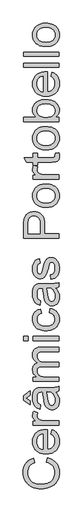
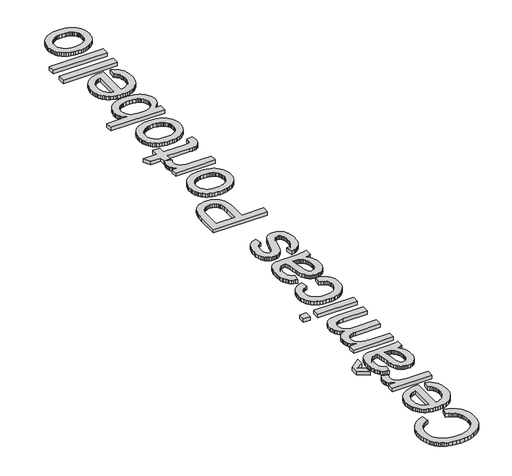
# One storey, part 2 of 11: 1 proxy.
"""IFC4 building model written with IfcOpenShell, lengths in millimetres."""

from ifc_helpers import new_model, si_unit, origin, origin_with_axes, place, context, project, spatial, polyline, outline, extrude, element, save

model = new_model("IFC4")

# Units and contexts
model_context = context("Model", 3, world=origin())
ifc_project = project(units=[si_unit("LENGTHUNIT", "METRE", prefix="MILLI")], contexts=[model_context])

# Site, building, storey
site = spatial("IfcSite", under=ifc_project)
building = spatial("IfcBuilding", under=site)
storey = spatial("IfcBuildingStorey", under=building, Name="PORTOBELLO - SHOWROOM", Elevation=0.0)

# Proxy
placement = place(None, origin())
element("IfcBuildingElementProxy", 1, Name="1200mm OpenSans", ObjectType="1200mm OpenSans", at=placement, inside=storey, context=model_context, shape_type="SweptSolid", body=[
    extrude(outline(polyline([(-36175.2477372, -11128.1020827), (-36127.655154, -10943.5005479), (-36068.4432878, -10960.2492162), (-36012.8538211, -10980.0287568), (-35960.8867539, -11002.8391699), (-35912.5420862, -11028.6804553), (-35867.819818, -11057.5526131), (-35826.7199493, -11089.4556432), (-35789.2424801, -11124.3895457), (-35755.3874104, -11162.3543206), (-35725.3462824, -11202.9387157), (-35699.310638, -11245.7314787), (-35677.2804774, -11290.7326097), (-35659.2558006, -11337.9421086), (-35645.2366075, -11387.3599756), (-35635.2228981, -11438.9862105), (-35629.2146725, -11492.8208134), (-35627.2119307, -11548.8637842), (-35633.2736754, -11661.4342148), (-35640.8508563, -11713.5871905), (-35651.4589096, -11762.9853399), (-35665.0978353, -11809.6286629), (-35681.7676333, -11853.5171595), (-35701.4683037, -11894.6508297), (-35724.1998464, -11933.0296736), (-35749.804521, -11968.9269203), (-35778.1245868, -12002.615799), (-35809.1600438, -12034.0963098), (-35842.910892, -12063.3684526), (-35879.3771315, -12090.4322274), (-35918.5587622, -12115.2876343), (-35960.4557841, -12137.9346732), (-36005.0681973, -12158.3733441), (-36098.6984924, -12192.2086962), (-36195.7089425, -12216.3768049), (-36296.0995477, -12230.87767), (-36399.870308, -12235.7112918), (-36511.2126155, -12230.2467078), (-36615.2087195, -12213.8529557), (-36711.8586197, -12186.5300357), (-36757.4287435, -12168.7701377), (-36801.1623163, -12148.2779476), (-36842.690338, -12125.2675421), (-36881.6438082, -12099.9529975), (-36918.022727, -12072.3343139), (-36951.8270944, -12042.4114913), (-36983.0569103, -12010.1845296), (-37011.7121748, -11975.6534289), (-37037.7928879, -11938.8181891), (-37061.2990495, -11899.6788104), (-37100.1820998, -11817.0678208), (-37127.9557072, -11730.4006451), (-37144.6198717, -11639.6772834), (-37150.1745931, -11544.8977356), (-37148.3774774, -11491.0096136), (-37142.9861301, -11439.3129588), (-37134.0005512, -11389.8077712), (-37121.4207408, -11342.4940508), (-37105.2466988, -11297.3717976), (-37085.4784253, -11254.4410116), (-37062.1159203, -11213.7016927), (-37035.1591837, -11175.1538411), (-37004.9405975, -11139.124205), (-36971.7925436, -11105.9395327), (-36935.715022, -11075.5998243), (-36896.7080326, -11048.1050797), (-36854.7715755, -11023.4552989), (-36809.9056507, -11001.650482), (-36762.1102582, -10982.6906289), (-36711.385398, -10966.5757397), (-36667.3983135, -11151.1772746), (-36739.992777, -11180.2466081), (-36802.0186223, -11215.174877), (-36853.4758494, -11255.9620813), (-36894.3644584, -11302.6082211), (-36925.5182209, -11355.3837087), (-36947.7709083, -11414.5589566), (-36961.1225208, -11480.1339647), (-36965.5730583, -11552.1087331), (-36960.6380319, -11634.9225319), (-36945.8329528, -11710.6605396), (-36921.1578208, -11779.322756), (-36886.6126362, -11840.9091811), (-36843.75227, -11894.6423793), (-36794.1315938, -11939.744915), (-36737.7506075, -11976.2167881), (-36674.609311, -12004.0579985), (-36607.569569, -12024.6431428), (-36539.4932462, -12039.3468173), (-36470.3803424, -12048.169022), (-36400.2308578, -12051.1097569), (-36312.0764139, -12047.6281972), (-36229.690768, -12037.1835181), (-36153.0739201, -12019.7757196), (-36082.2258701, -11995.4048016), (-36018.555016, -11963.6764128), (-35963.4697557, -11924.1962017), (-35916.9700893, -11876.9641684), (-35879.0560168, -11821.9803128), (-35849.6374006, -11761.9149574), (-35828.6241033, -11699.4384248), (-35816.016125, -11634.5507149), (-35811.8134655, -11567.2518277), (-35817.5371947, -11486.9956795), (-35834.7083824, -11413.1618258), (-35847.5867732, -11378.6532595), (-35863.3270286, -11345.7502668), (-35881.9291486, -11314.4528478), (-35903.3931332, -11284.7610024), (-35927.6739137, -11257.0352806), (-35954.7264213, -11231.6362321), (-35984.5506561, -11208.563857), (-36017.146618, -11187.8181554), (-36052.5143071, -11169.3991271), (-36090.6537233, -11153.3067722), (-36175.2477372, -11128.1020827)])), origin_with_axes(), (0.0, 0.0, 1.0), 100.0),
    extrude(outline(polyline([(-35973.3398085, -9953.4305973), (-35950.2646166, -9772.4345612), (-35877.7715579, -9800.1856342), (-35844.7530765, -9817.7032878), (-35813.8866273, -9837.6490194), (-35785.1722101, -9860.0228291), (-35758.6098249, -9884.8247168), (-35734.1994718, -9912.0546826), (-35711.9411508, -9941.7127264), (-35692.0827398, -9973.6523749), (-35674.872117, -10007.7271547), (-35660.3092823, -10043.9370657), (-35648.3942357, -10082.2821081), (-35632.5075069, -10165.3775866), (-35627.2119307, -10257.0135902), (-35629.4963521, -10315.8451889), (-35636.3496165, -10371.5557778), (-35647.7717238, -10424.1453569), (-35663.762674, -10473.6139262), (-35684.3224671, -10519.9614856), (-35709.4511032, -10563.1880352), (-35739.1485822, -10603.293575), (-35773.4149041, -10640.2781049), (-35811.8050151, -10673.4881283), (-35853.8738616, -10702.2701486), (-35899.6214435, -10726.6241658), (-35949.0477608, -10746.5501799), (-36002.1528136, -10762.0481908), (-36058.9366017, -10773.1181986), (-36119.3991253, -10779.7602033), (-36183.5403843, -10781.9742049), (-36249.8646601, -10779.7376689), (-36312.3693607, -10773.0280612), (-36371.0544861, -10761.8453815), (-36425.9200363, -10746.18963), (-36476.9660112, -10726.0608066), (-36524.192411, -10701.4589114), (-36567.5992355, -10672.3839443), (-36607.1864848, -10638.8359054), (-36642.5091051, -10601.7218029), (-36673.1220428, -10561.948645), (-36699.0252977, -10519.5164319), (-36720.2188699, -10474.4251634), (-36736.7027594, -10426.6748396), (-36748.4769662, -10376.2654606), (-36755.5414902, -10323.1970262), (-36757.8963316, -10267.4695365), (-36755.5471238, -10213.5645137), (-36748.4995005, -10162.1777064), (-36736.7534617, -10113.3091147), (-36720.3090074, -10066.9587385), (-36699.1661375, -10023.1265778), (-36673.3248521, -9981.8126326), (-36642.7851511, -9943.0169029), (-36607.5470347, -9906.7393888), (-36568.0499228, -9873.9096328), (-36524.7332358, -9845.4571776), (-36477.5969735, -9821.3820232), (-36426.641136, -9801.6841696), (-36371.8657233, -9786.3636168), (-36313.2707354, -9775.4203648), (-36250.8561723, -9768.8544136), (-36184.6220339, -9766.6657632), (-36134.8661515, -9767.7474128), (-36134.8661515, -10597.37267), (-36061.2013056, -10586.6801129), (-36027.7997401, -10577.3706025), (-35996.6854128, -10565.4189376), (-35967.8583237, -10550.8251181), (-35941.3184729, -10533.5891441), (-35917.0658604, -10513.7110156), (-35895.1004861, -10491.1907325), (-35858.6624146, -10440.5672769), (-35832.6352207, -10384.0623516), (-35817.0189043, -10321.6759564), (-35811.8134655, -10253.4080914), (-35814.2246428, -10202.3452157), (-35821.4581746, -10155.1582511), (-35833.514061, -10111.8471976), (-35850.3923019, -10072.4120553), (-35872.5435847, -10036.8528241), (-35900.4185967, -10005.169504), (-35934.017338, -9977.3620951), (-35973.3398085, -9953.4305973)]), holes=[polyline([(-36319.4676863, -10597.37267), (-36319.4676863, -9951.2672981), (-36371.7023491, -9960.7542666), (-36416.9964269, -9976.2353768), (-36455.3499196, -9997.7106285), (-36486.7628273, -10025.180022), (-36507.0437576, -10049.4833368), (-36524.6205639, -10075.521798), (-36539.4932462, -10103.2954053), (-36551.6618044, -10132.804159), (-36567.8865487, -10197.0271051), (-36573.2947967, -10268.1906362), (-36568.9794655, -10333.1008805), (-36556.0334716, -10392.625411), (-36534.4568151, -10446.7642279), (-36504.2494961, -10495.517331), (-36466.8086453, -10536.4284743), (-36423.5313934, -10567.041412), (-36374.4177404, -10587.3561439), (-36319.4676863, -10597.37267)])]), origin_with_axes(), (0.0, 0.0, 1.0), 100.0),
    extrude(outline(polyline([(-35650.2871225, -9582.0642284), (-36734.8211397, -9582.0642284), (-36734.8211397, -9420.5378854), (-36574.3764464, -9420.5378854), (-36625.6646658, -9390.1164899), (-36667.3983135, -9360.8668814), (-36699.5773897, -9332.7890601), (-36722.2018942, -9305.8830258), (-36737.8182106, -9278.9319229), (-36748.9727222, -9250.7188953), (-36755.6654293, -9221.2439432), (-36757.8963316, -9190.5070666), (-36754.3359016, -9144.7172327), (-36743.6546116, -9098.566849), (-36725.8524617, -9052.0559154), (-36700.9294517, -9005.184432), (-36535.4370601, -9066.8384602), (-36551.9998199, -9099.2879488), (-36563.8303626, -9131.7374373), (-36570.9286882, -9164.1869259), (-36573.2947967, -9196.6364144), (-36571.0188257, -9224.9283122), (-36564.1909125, -9251.7554762), (-36552.8110571, -9277.1179063), (-36536.8792596, -9301.0156026), (-36516.9138104, -9322.5471903), (-36493.4329999, -9340.8112948), (-36466.4368282, -9355.807916), (-36435.9252952, -9367.5370541), (-36385.5384505, -9380.6295213), (-36332.8080316, -9389.9812837), (-36277.7340386, -9395.5923411), (-36220.3164713, -9397.4626935), (-35650.2871225, -9397.4626935), (-35650.2871225, -9582.0642284)])), origin_with_axes(), (0.0, 0.0, 1.0), 100.0),
    extrude(outline(polyline([(-35788.7382737, -8197.552717), (-35747.6581225, -8241.325725), (-35713.1129378, -8285.7522297), (-35685.1027196, -8330.8322309), (-35663.6274678, -8376.5657288), (-35647.6956703, -8423.4710139), (-35636.315815, -8472.0663764), (-35629.4879017, -8522.3518165), (-35627.2119307, -8574.327334), (-35632.6877819, -8656.5214379), (-35639.5325958, -8693.8242657), (-35649.1153354, -8728.5976108), (-35661.4360006, -8760.8414733), (-35676.4945914, -8790.555853), (-35694.2911078, -8817.7407501), (-35714.8255497, -8842.3961644), (-35737.4894894, -8864.3249204), (-35761.6744988, -8883.3298422), (-35787.380578, -8899.4109299), (-35814.607727, -8912.5681834), (-35843.3559458, -8922.8016029), (-35873.6252343, -8930.1111882), (-35938.7270207, -8935.9588564), (-35977.8692163, -8933.7504884), (-36015.2537312, -8927.1253845), (-36050.8805655, -8916.0835447), (-36084.7497192, -8900.6249689), (-36116.1175581, -8881.5721615), (-36144.2404482, -8859.7476271), (-36169.1183894, -8835.1513654), (-36190.7513818, -8807.7833767), (-36225.9049944, -8746.715242), (-36251.3237604, -8678.5262473), (-36265.4753429, -8612.0949332), (-36279.0861006, -8518.8026536), (-36293.0574082, -8417.2627957), (-36308.2906403, -8330.0547953), (-36324.785797, -8257.1786522), (-36342.5428782, -8198.6343666), (-36383.6455637, -8197.552717), (-36428.3988166, -8200.7300628), (-36466.0312096, -8210.2621), (-36496.5427426, -8226.1488288), (-36519.9334156, -8248.3902491), (-36543.2790198, -8286.8338793), (-36559.9544515, -8333.660294), (-36569.9597104, -8388.8694933), (-36573.2947967, -8452.4614771), (-36571.0751616, -8511.5916562), (-36564.4162561, -8562.4291882), (-36553.3180804, -8604.9740732), (-36537.7806343, -8639.2263111), (-36516.5870621, -8667.3717356), (-36488.5205079, -8691.5961802), (-36453.5809718, -8711.8996449), (-36411.7684538, -8728.2821297), (-36434.8436456, -8912.8836646), (-36488.0247518, -8898.8334867), (-36535.79761, -8880.8397946), (-36578.16222, -8858.9025883), (-36615.118582, -8833.0218677), (-36647.41033, -8802.0821818), (-36675.7810981, -8764.9680793), (-36700.2308863, -8721.6795602), (-36720.7596947, -8672.2166245), (-36737.0069733, -8617.5820516), (-36748.6121724, -8558.7786208), (-36755.5752918, -8495.8063321), (-36757.8963316, -8428.6651855), (-36755.8457042, -8363.0338414), (-36749.693822, -8303.8698608), (-36739.440685, -8251.1732434), (-36725.0862932, -8204.9439894), (-36707.6334259, -8164.7990145), (-36688.0848625, -8130.3552345), (-36666.4406029, -8101.6126493), (-36642.7006473, -8078.571259), (-36616.2791019, -8059.8902687), (-36586.5900733, -8044.2288836), (-36553.6335615, -8031.5871037), (-36517.4095665, -8021.964929), (-36453.592239, -8015.2046189), (-36355.8832235, -8012.9511822), (-36126.2129545, -8012.9511822), (-35926.1528439, -8010.607608), (-35805.5038427, -8003.5768855), (-35726.2279395, -7989.6957154), (-35650.2871225, -7966.8007985), (-35650.2871225, -8151.4023333), (-35681.1141366, -8167.8073525), (-35714.4649999, -8180.9674229), (-35750.3397122, -8190.8825444), (-35788.7382737, -8197.552717)]), holes=[polyline([(-36157.9413433, -8197.552717), (-36141.9644771, -8253.3478098), (-36127.2044667, -8321.5818733), (-36101.3350133, -8495.3669119), (-36087.1834308, -8591.1379719), (-36071.4093739, -8654.1891309), (-36050.9481686, -8695.51716), (-36037.8106326, -8712.1587901), (-36022.7351411, -8726.1188305), (-35988.9335905, -8745.0476988), (-35970.7483563, -8749.7799159), (-35951.7068161, -8751.3573216), (-35923.0205669, -8747.9208306), (-35896.813098, -8737.6113577), (-35873.0844095, -8720.4289028), (-35851.8345014, -8696.373466), (-35834.3252982, -8665.6703909), (-35821.8187245, -8628.5450212), (-35814.3147803, -8584.9973568), (-35811.8134655, -8535.0273979), (-35814.5739255, -8484.0095909), (-35822.8553054, -8435.8761829), (-35836.6576052, -8390.6271739), (-35855.9808249, -8348.2625638), (-35879.2250245, -8310.0442773), (-35904.7902639, -8277.2342389), (-35932.6765432, -8249.8324486), (-35962.8838622, -8227.8389063), (-35989.9251026, -8215.0619202), (-36022.7351411, -8205.9355016), (-36061.3139774, -8200.4596504), (-36105.6616118, -8198.6343666), (-36157.9413433, -8197.552717)])]), origin_with_axes(), (0.0, 0.0, 1.0), 100.0),
    extrude(outline(polyline([(-37034.7986339, -8451.3798274), (-36850.197099, -8555.2181908), (-36850.197099, -8739.8197256), (-37127.0994013, -8543.6805949), (-37127.0994013, -8359.07906), (-36850.197099, -8139.8647374), (-36850.197099, -8324.4662722), (-37034.7986339, -8451.3798274)])), origin_with_axes(), (0.0, 0.0, 1.0), 100.0),
    extrude(outline(polyline([(-35650.2871225, -7759.1240718), (-36734.8211397, -7759.1240718), (-36734.8211397, -7574.5225369), (-36556.3489527, -7574.5225369), (-36599.5586015, -7548.743221), (-36638.32898, -7518.9978565), (-36672.6600882, -7485.2864434), (-36702.5519261, -7447.6089817), (-36726.7651035, -7406.5738993), (-36744.0602302, -7362.7896242), (-36754.4373063, -7316.2561562), (-36757.8963316, -7266.9734955), (-36754.3697032, -7213.0938239), (-36743.7898178, -7164.3069192), (-36726.1566756, -7120.6127815), (-36701.4702765, -7082.0114108), (-36670.4291859, -7048.6154788), (-36633.7319692, -7020.5376575), (-36591.3786263, -6997.7779467), (-36543.3691573, -6980.3363466), (-36593.6489638, -6947.8755909), (-36637.2247961, -6913.0487266), (-36674.0966541, -6875.8557538), (-36704.264538, -6836.2966725), (-36727.7284477, -6794.3714826), (-36744.4883832, -6750.0801842), (-36754.5443445, -6703.4227772), (-36757.8963316, -6654.3992617), (-36752.3190757, -6580.497805), (-36745.3475059, -6546.935682), (-36735.5873082, -6515.6326294), (-36723.0384826, -6486.5886471), (-36707.701029, -6459.803735), (-36689.5749475, -6435.2778933), (-36668.6602381, -6413.0111219), (-36644.8442289, -6393.1949629), (-36618.0142482, -6376.0209584), (-36588.1702958, -6361.4891084), (-36555.3123718, -6349.599413), (-36519.4404763, -6340.3518721), (-36480.5546092, -6333.7464858), (-36393.7409601, -6328.4621767), (-35650.2871225, -6328.4621767), (-35650.2871225, -6513.0637116), (-36314.4199881, -6513.0637116), (-36406.4954119, -6517.3452413), (-36441.2772074, -6522.6971535), (-36468.5550587, -6530.1898305), (-36490.9429524, -6540.4880363), (-36511.054875, -6554.2565345), (-36528.8908265, -6571.4953253), (-36544.4508069, -6592.2044086), (-36557.0700525, -6615.6288832), (-36566.0837993, -6641.0138477), (-36571.4920474, -6668.3593021), (-36573.2947967, -6697.6652464), (-36568.6752515, -6749.9787795), (-36554.8166158, -6797.6727674), (-36531.7188895, -6840.74721), (-36499.3820728, -6879.2021073), (-36479.5123947, -6896.1451346), (-36456.8597222, -6910.8290915), (-36403.2053943, -6933.4197945), (-36338.419089, -6946.9742162), (-36262.5008064, -6951.4923568), (-35650.2871225, -6951.4923568), (-35650.2871225, -7136.0938917), (-36334.9713309, -7136.0938917), (-36390.9016299, -7138.7642142), (-36439.350519, -7146.7751816), (-36480.3179983, -7160.1267941), (-36513.8040677, -7178.8190516), (-36539.8312617, -7203.5955882), (-36558.4221145, -7235.2000379), (-36569.5766262, -7273.6324009), (-36573.2947967, -7318.8926771), (-36570.8160164, -7355.1504737), (-36563.3796752, -7390.0111395), (-36550.9857734, -7423.4746746), (-36533.6343107, -7455.5410789), (-36511.5055623, -7484.7456186), (-36484.779803, -7509.6235598), (-36453.4570328, -7530.1749026), (-36417.5372517, -7546.3996469), (-36375.1050386, -7558.7034113), (-36324.2449721, -7567.4918144), (-36264.9570524, -7572.7648563), (-36197.2412795, -7574.5225369), (-35650.2871225, -7574.5225369), (-35650.2871225, -7759.1240718)])), origin_with_axes(), (0.0, 0.0, 1.0), 100.0),
    extrude(outline(polyline([(-36942.4978664, -6051.5598744), (-37127.0994013, -6051.5598744), (-37127.0994013, -5866.9583396), (-36942.4978664, -5866.9583396), (-36942.4978664, -6051.5598744)])), origin_with_axes(), (0.0, 0.0, 1.0), 100.0),
    extrude(outline(polyline([(-35650.2871225, -6051.5598744), (-36734.8211397, -6051.5598744), (-36734.8211397, -5866.9583396), (-35650.2871225, -5866.9583396), (-35650.2871225, -6051.5598744)])), origin_with_axes(), (0.0, 0.0, 1.0), 100.0),
    extrude(outline(polyline([(-36042.5653841, -4897.8002817), (-36019.4901922, -4713.1987468), (-35974.6834201, -4721.8237758), (-35932.3835964, -4733.2768679), (-35892.590721, -4747.558023), (-35855.3047939, -4764.6672412), (-35820.5258152, -4784.6045224), (-35788.2537848, -4807.3698667), (-35758.4887027, -4832.9632741), (-35731.230569, -4861.3847445), (-35706.8512006, -4892.0652853), (-35685.7224147, -4924.4359035), (-35667.8442112, -4958.4965993), (-35653.2165902, -4994.2473726), (-35641.8395517, -5031.6882235), (-35633.7130956, -5070.8191518), (-35628.8372219, -5111.6401578), (-35627.2119307, -5154.1512412), (-35629.4794513, -5207.2562939), (-35636.2820134, -5257.6853906), (-35647.6196168, -5305.4385311), (-35663.4922616, -5350.5157156), (-35683.8999478, -5392.916944), (-35708.8426753, -5432.6422163), (-35738.3204442, -5469.6915326), (-35772.3332544, -5504.0648927), (-35810.5825257, -5535.0355634), (-35852.7696776, -5561.8768113), (-35898.8947102, -5584.5886365), (-35948.9576234, -5603.171039), (-36002.9584172, -5617.6240186), (-36060.8970917, -5627.9475755), (-36122.7736468, -5634.1417097), (-36188.5880825, -5636.206421), (-36273.463776, -5632.6797926), (-36352.8636183, -5622.0999073), (-36426.7876094, -5604.4667651), (-36495.2357493, -5579.780366), (-36556.8334416, -5547.8717022), (-36610.20609, -5508.5717661), (-36655.3536943, -5461.8805576), (-36692.2762548, -5407.7980767), (-36720.9850384, -5348.7693022), (-36741.4913124, -5287.239213), (-36753.7950768, -5223.207809), (-36757.8963316, -5156.6750903), (-36752.2627398, -5074.7739333), (-36745.2207501, -5036.7556393), (-36735.3619645, -5000.6922016), (-36722.6863831, -4966.5836203), (-36707.1940057, -4934.4298953), (-36688.8848325, -4904.2310267), (-36667.7588634, -4875.9870144), (-36644.0414421, -4849.9457364), (-36617.9579122, -4826.3550709), (-36589.5082738, -4805.2150179), (-36558.6925269, -4786.5255772), (-36525.5106714, -4770.2867489), (-36489.9627074, -4756.4985331), (-36411.7684538, -4736.2739387), (-36388.6932619, -4920.8754735), (-36431.8127732, -4935.2862012), (-36469.2310897, -4954.361543), (-36500.9482113, -4978.1014986), (-36526.9641381, -5006.5060683), (-36547.2338013, -5038.8541522), (-36561.7121321, -5074.4246506), (-36570.3991306, -5113.2175634), (-36573.2947967, -5155.2328908), (-36567.5936019, -5217.9573015), (-36550.4900173, -5274.5298299), (-36537.6623289, -5300.5091384), (-36521.984043, -5324.9504762), (-36482.0756789, -5369.2192403), (-36457.6146235, -5388.528376), (-36429.8410161, -5405.2629604), (-36398.7548568, -5419.4229933), (-36364.3561455, -5431.0084747), (-36285.621067, -5446.4557833), (-36193.6357807, -5451.6048862), (-36100.2646309, -5446.5684552), (-36020.6169106, -5431.4591621), (-35985.9393365, -5420.1271922), (-35954.6926198, -5406.2770069), (-35926.8767604, -5389.908606), (-35902.4917585, -5371.0219896), (-35862.8200053, -5327.6320659), (-35847.2346737, -5303.6132474), (-35834.4830388, -5278.0451912), (-35817.4808588, -5222.2613656), (-35811.8134655, -5160.280589), (-35815.3513611, -5110.3331645), (-35825.965048, -5064.689804), (-35843.6545261, -5023.3505077), (-35868.4197955, -4986.3152754), (-35900.5312686, -4954.6206882), (-35940.2593577, -4929.3033268), (-35987.6040628, -4910.3631913), (-36042.5653841, -4897.8002817)])), origin_with_axes(), (0.0, 0.0, 1.0), 100.0),
    extrude(outline(polyline([(-35788.7382737, -3859.4166482), (-35747.6581225, -3903.1896561), (-35713.1129378, -3947.6161608), (-35685.1027196, -3992.6961621), (-35663.6274678, -4038.42966), (-35647.6956703, -4085.334945), (-35636.315815, -4133.9303075), (-35629.4879017, -4184.2157476), (-35627.2119307, -4236.1912652), (-35632.6877819, -4318.385369), (-35639.5325958, -4355.6881968), (-35649.1153354, -4390.461542), (-35661.4360006, -4422.7054044), (-35676.4945914, -4452.4197842), (-35694.2911078, -4479.6046812), (-35714.8255497, -4504.2600956), (-35737.4894894, -4526.1888515), (-35761.6744988, -4545.1937733), (-35787.380578, -4561.274861), (-35814.607727, -4574.4321145), (-35843.3559458, -4584.665534), (-35873.6252343, -4591.9751193), (-35938.7270207, -4597.8227875), (-35977.8692163, -4595.6144196), (-36015.2537312, -4588.9893157), (-36050.8805655, -4577.9474758), (-36084.7497192, -4562.4889), (-36116.1175581, -4543.4360927), (-36144.2404482, -4521.6115582), (-36169.1183894, -4497.0152966), (-36190.7513818, -4469.6473078), (-36225.9049944, -4408.5791731), (-36251.3237604, -4340.3901784), (-36265.4753429, -4273.9588643), (-36279.0861006, -4180.6665848), (-36293.0574082, -4079.1267269), (-36308.2906403, -3991.9187264), (-36324.785797, -3919.0425834), (-36342.5428782, -3860.4982978), (-36383.6455637, -3859.4166482), (-36428.3988166, -3862.5939939), (-36466.0312096, -3872.1260312), (-36496.5427426, -3888.0127599), (-36519.9334156, -3910.2541802), (-36543.2790198, -3948.6978104), (-36559.9544515, -3995.5242251), (-36569.9597104, -4050.7334244), (-36573.2947967, -4114.3254082), (-36571.0751616, -4173.4555873), (-36564.4162561, -4224.2931194), (-36553.3180804, -4266.8380044), (-36537.7806343, -4301.0902423), (-36516.5870621, -4329.2356667), (-36488.5205079, -4353.4601113), (-36453.5809718, -4373.763576), (-36411.7684538, -4390.1460608), (-36434.8436456, -4574.7475957), (-36488.0247518, -4560.6974178), (-36535.79761, -4542.7037257), (-36578.16222, -4520.7665194), (-36615.118582, -4494.8857989), (-36647.41033, -4463.9461129), (-36675.7810981, -4426.8320104), (-36700.2308863, -4383.5434913), (-36720.7596947, -4334.0805556), (-36737.0069733, -4279.4459827), (-36748.6121724, -4220.6425519), (-36755.5752918, -4157.6702632), (-36757.8963316, -4090.5291166), (-36755.8457042, -4024.8977726), (-36749.693822, -3965.7337919), (-36739.440685, -3913.0371745), (-36725.0862932, -3866.8079205), (-36707.6334259, -3826.6629457), (-36688.0848625, -3792.2191656), (-36666.4406029, -3763.4765805), (-36642.7006473, -3740.4351902), (-36616.2791019, -3721.7541999), (-36586.5900733, -3706.0928148), (-36553.6335615, -3693.4510349), (-36517.4095665, -3683.8288601), (-36453.592239, -3677.06855), (-36355.8832235, -3674.8151133), (-36126.2129545, -3674.8151133), (-35926.1528439, -3672.4715391), (-35805.5038427, -3665.4408166), (-35726.2279395, -3651.5596465), (-35650.2871225, -3628.6647296), (-35650.2871225, -3813.2662644), (-35681.1141366, -3829.6712837), (-35714.4649999, -3842.831354), (-35750.3397122, -3852.7464755), (-35788.7382737, -3859.4166482)]), holes=[polyline([(-36157.9413433, -3859.4166482), (-36141.9644771, -3915.211741), (-36127.2044667, -3983.4458044), (-36101.3350133, -4157.230843), (-36087.1834308, -4253.001903), (-36071.4093739, -4316.053062), (-36050.9481686, -4357.3810912), (-36037.8106326, -4374.0227212), (-36022.7351411, -4387.9827616), (-35988.9335905, -4406.9116299), (-35970.7483563, -4411.643847), (-35951.7068161, -4413.2212527), (-35923.0205669, -4409.7847617), (-35896.813098, -4399.4752888), (-35873.0844095, -4382.2928339), (-35851.8345014, -4358.2373971), (-35834.3252982, -4327.534322), (-35821.8187245, -4290.4089523), (-35814.3147803, -4246.861288), (-35811.8134655, -4196.891329), (-35814.5739255, -4145.8735221), (-35822.8553054, -4097.740114), (-35836.6576052, -4052.491105), (-35855.9808249, -4010.126495), (-35879.2250245, -3971.9082085), (-35904.7902639, -3939.09817), (-35932.6765432, -3911.6963797), (-35962.8838622, -3889.7028375), (-35989.9251026, -3876.9258514), (-36022.7351411, -3867.7994327), (-36061.3139774, -3862.3235815), (-36105.6616118, -3860.4982978), (-36157.9413433, -3859.4166482)])]), origin_with_axes(), (0.0, 0.0, 1.0), 100.0),
    extrude(outline(polyline([(-35973.3398085, -3490.2135785), (-35996.4150004, -3305.6120436), (-35954.3208027, -3294.4575319), (-35917.4545782, -3276.4976414), (-35885.8163269, -3251.732372), (-35859.4060487, -3220.1617238), (-35838.5842936, -3181.6955592), (-35823.7116113, -3136.2437409), (-35814.788002, -3083.8062688), (-35811.8134655, -3024.3831429), (-35814.5401239, -2965.0276201), (-35822.7200992, -2913.8746069), (-35836.3533912, -2870.9241033), (-35855.4400001, -2836.1761093), (-35878.1997108, -2809.3602125), (-35902.8523084, -2790.2060005), (-35929.3977928, -2778.7134733), (-35957.836164, -2774.8826309), (-35982.7591739, -2778.7360077), (-36004.8879224, -2790.296138), (-36024.2224093, -2809.5630218), (-36040.7626347, -2836.5366592), (-36064.1983764, -2905.6720973), (-36093.4029161, -3026.5464421), (-36142.1222177, -3195.0133702), (-36163.811546, -3257.1406201), (-36183.7206592, -3304.530394), (-36204.5762159, -3342.1289854), (-36229.1048745, -3374.8826879), (-36257.3066348, -3402.7915015), (-36289.181497, -3425.8554262), (-36323.7717504, -3443.9167214), (-36360.1196845, -3456.8176465), (-36398.2252992, -3464.5582016), (-36438.0885945, -3467.1383866), (-36474.5379332, -3465.0652248), (-36509.6126755, -3458.8457395), (-36543.3128214, -3448.4799307), (-36575.6383709, -3433.9677983), (-36605.9358274, -3415.8727016), (-36633.5516942, -3394.7579997), (-36658.4859714, -3370.6236925), (-36680.7386588, -3343.4697803), (-36710.4389546, -3292.497042), (-36735.3619645, -3226.1107967), (-36752.2627398, -3149.3587425), (-36757.8963316, -3067.2885777), (-36755.6316277, -3005.2514653), (-36748.837516, -2947.1353326), (-36737.5139966, -2892.9401799), (-36721.6610694, -2842.666007), (-36701.9434982, -2797.5071355), (-36679.0260469, -2758.6578867), (-36652.9087155, -2726.1182607), (-36623.591504, -2699.8882574), (-36590.0490986, -2678.6158149), (-36551.2561858, -2660.9488712), (-36507.2127654, -2646.8874261), (-36457.9188375, -2636.4314798), (-36434.8436456, -2821.0330147), (-36465.6819269, -2829.832685), (-36492.9372439, -2844.3335502), (-36516.6095964, -2864.5356102), (-36536.6989847, -2890.4388652), (-36552.7096525, -2922.1559868), (-36564.1458437, -2959.7996469), (-36571.0075585, -3003.3698456), (-36573.2947967, -3052.8665828), (-36571.1089631, -3110.2841501), (-36564.5514623, -3158.8682454), (-36553.6222943, -3198.6188689), (-36538.3214591, -3229.5360205), (-36520.1136905, -3252.7238842), (-36500.4637225, -3269.2866439), (-36479.3715549, -3279.2242998), (-36456.8371879, -3282.5368518), (-36428.4438854, -3277.0384662), (-36403.1152568, -3260.5433095), (-36380.4907523, -3232.330282), (-36362.3731212, -3191.6782838), (-36323.0731851, -3032.67579), (-36274.8496396, -2869.5720413), (-36236.1806657, -2761.7225606), (-36217.3194005, -2723.7746865), (-36194.6272929, -2690.1534108), (-36168.1043429, -2660.8587337), (-36137.7505505, -2635.890655), (-36103.5208469, -2615.936473), (-36065.3701635, -2601.6834858), (-36023.2985002, -2593.1316935), (-35977.3058571, -2590.2810961), (-35931.1104047, -2593.6274496), (-35886.2670142, -2603.6665101), (-35842.7756858, -2620.3982777), (-35800.6364195, -2643.8227522), (-35761.5280254, -2673.5568495), (-35727.1293141, -2709.2174854), (-35697.4402856, -2750.8046597), (-35672.4609397, -2798.3183727), (-35652.6644982, -2850.462898), (-35638.5241829, -2905.9425097), (-35630.0399937, -2964.7572077), (-35627.2119307, -3026.906992), (-35632.6652475, -3126.2610163), (-35639.4818935, -3171.2227121), (-35649.025198, -3213.0408638), (-35661.2951608, -3251.7154712), (-35676.2917821, -3287.2465345), (-35694.0150618, -3319.6340535), (-35714.4649999, -3348.8780283), (-35737.5965276, -3375.2995737), (-35763.3645764, -3399.2198043), (-35791.769146, -3420.6387202), (-35822.8102366, -3439.5563213), (-35856.4878482, -3455.9726077), (-35892.8019807, -3469.8875794), (-35973.3398085, -3490.2135785)])), origin_with_axes(), (0.0, 0.0, 1.0), 100.0),
    extrude(outline(polyline([(-35650.2871225, -1782.6493811), (-37127.0994013, -1782.6493811), (-37127.0994013, -1235.3346743), (-37123.58404, -1107.8802943), (-37113.0379562, -1014.6781522), (-37101.9623148, -963.3110625), (-37086.7628843, -916.2931057), (-37067.4396645, -873.6242817), (-37043.9926556, -835.3045905), (-37015.9373686, -800.9284136), (-36982.7893147, -770.0901323), (-36944.5484938, -742.7897466), (-36901.214906, -719.0272565), (-36854.2194835, -699.7829071), (-36804.9931587, -686.0369432), (-36753.5359316, -677.7893648), (-36699.8478021, -675.0401721), (-36653.6129145, -676.8964406), (-36609.1920435, -682.465246), (-36566.585189, -691.7465884), (-36525.792351, -704.7404678), (-36486.8135296, -721.4468842), (-36449.6487248, -741.8658375), (-36414.2979365, -765.9973279), (-36380.7611647, -793.8413551), (-36350.1707614, -826.5302713), (-36323.6590786, -865.1964284), (-36301.2261162, -909.8398263), (-36282.8718743, -960.4604651), (-36268.5963527, -1017.0583447), (-36258.3995516, -1079.6334652), (-36252.281471, -1148.1858266), (-36250.2421108, -1222.7154288), (-36250.2421108, -1598.0478463), (-35650.2871225, -1598.0478463), (-35650.2871225, -1782.6493811)]), holes=[polyline([(-36434.8436456, -1598.0478463), (-36434.8436456, -1211.8989326), (-36439.0801066, -1123.1135264), (-36451.7894896, -1048.2092904), (-36472.9717947, -987.1862244), (-36486.7402929, -961.8801302), (-36502.6270217, -940.0443285), (-36539.9664679, -904.8681816), (-36584.2014304, -879.7423623), (-36635.3319092, -864.6668708), (-36693.3579044, -859.6417069), (-36736.4436142, -862.6049762), (-36776.2843751, -871.494784), (-36812.8801872, -886.3111303), (-36846.2310504, -907.0540152), (-36875.2553152, -932.6192546), (-36898.8713318, -961.9026646), (-36917.0791004, -994.9042451), (-36929.8786209, -1031.6239962), (-36939.3430551, -1102.8325961), (-36942.4978664, -1216.2255311), (-36942.4978664, -1598.0478463), (-36434.8436456, -1598.0478463)])]), origin_with_axes(), (0.0, 0.0, 1.0), 100.0),
    extrude(outline(polyline([(-36192.5541311, -490.4386372), (-36265.2105641, -487.9429561), (-36333.0108409, -480.4559126), (-36395.9549617, -467.9775069), (-36454.0429263, -450.5077388), (-36507.2747349, -428.0466085), (-36555.6503874, -400.5941158), (-36599.1698837, -368.1502609), (-36637.833224, -330.7150436), (-36665.9730148, -296.4515385), (-36690.3608336, -260.3627497), (-36710.9966802, -222.4486771), (-36727.8805547, -182.7093208), (-36741.0124571, -141.1446808), (-36750.3923874, -97.7547571), (-36756.0203455, -52.5395496), (-36757.8963316, -5.4990584), (-36755.6119101, 46.6426502), (-36748.7586458, 96.3450135), (-36737.3365385, 143.6080316), (-36721.3455882, 188.4317044), (-36700.7857951, 230.816032), (-36675.6571591, 270.7610144), (-36645.9596801, 308.2666516), (-36611.6933582, 343.3329435), (-36573.3990182, 375.0641491), (-36531.6174849, 402.5645273), (-36486.3487583, 425.8340781), (-36437.5928384, 444.8728014), (-36385.3497252, 459.6806974), (-36329.6194187, 470.2577659), (-36270.4019189, 476.604007), (-36207.6972258, 478.7194207), (-36108.8840263, 474.9787158), (-36021.2028041, 463.756601), (-35944.6535592, 445.0530763), (-35879.2362917, 418.8681418), (-35822.7313663, 385.5285458), (-35772.919148, 345.3610365), (-35729.7996366, 298.3656141), (-35693.3728323, 244.5422784), (-35664.4274378, 185.9867256), (-35643.7521561, 124.7946519), (-35631.346987, 60.9660572), (-35627.2119307, -5.4990584), (-35629.4879017, -58.4632713), (-35636.315815, -108.8303985), (-35647.6956703, -156.6004398), (-35663.6274678, -201.7733954), (-35684.1112075, -244.3492651), (-35709.1468892, -284.328049), (-35738.7345132, -321.7097472), (-35772.8740793, -356.4943595), (-35811.2951751, -387.8875496), (-35853.7273882, -415.094981), (-35900.1707187, -438.1166537), (-35950.6251665, -456.9525678), (-36005.0907317, -471.6027232), (-36063.5674142, -482.0671199), (-36126.055214, -488.3457579), (-36192.5541311, -490.4386372)]), holes=[polyline([(-36192.914681, -305.8371024), (-36103.3743735, -300.4964574), (-36063.1082764, -293.8206512), (-36025.8448837, -284.4745224), (-35991.5841954, -272.4580712), (-35960.3262115, -257.7712975), (-35932.070932, -240.4142013), (-35906.818357, -220.3867825), (-35865.253717, -174.9124298), (-35848.9247512, -150.1133589), (-35835.5646884, -123.9396916), (-35825.1735284, -96.3914279), (-35817.7512712, -67.4685678), (-35811.8134655, -5.4990584), (-35817.7850728, 56.1549699), (-35825.2495819, 84.9538909), (-35835.6998946, 112.40075), (-35849.1360109, 138.495547), (-35865.5579309, 163.2382821), (-35907.3591818, 208.667566), (-35932.8117494, 228.6949847), (-35961.396594, 246.052081), (-35993.1137156, 260.7388547), (-36027.9631142, 272.7553059), (-36065.9447899, 282.1014346), (-36107.0587426, 288.7772409), (-36198.683479, 294.1178859), (-36285.3844562, 288.7434393), (-36324.5351021, 282.0253812), (-36360.885853, 272.6200997), (-36394.4367087, 260.527595), (-36425.1876693, 245.747867), (-36453.1387349, 228.2809157), (-36478.2899053, 208.1267412), (-36519.8545453, 162.5284495), (-36536.183511, 137.7772641), (-36549.5435739, 111.724719), (-36559.9347339, 84.3708142), (-36567.356991, 55.7155497), (-36573.2947967, -5.4990584), (-36567.3795254, -67.4685678), (-36559.9854362, -96.3914279), (-36549.6337113, -123.9396916), (-36536.3243508, -150.1133589), (-36520.0573546, -174.9124298), (-36478.6504552, -220.3867825), (-36453.482384, -240.4142013), (-36425.3003412, -257.7712975), (-36394.1043268, -272.4580712), (-36359.8943408, -284.4745224), (-36322.6703833, -293.8206512), (-36282.4324541, -300.4964574), (-36192.914681, -305.8371024)])]), origin_with_axes(), (0.0, 0.0, 1.0), 100.0),
    extrude(outline(polyline([(-35804.2419182, 1770.9301646), (-35644.8788744, 1794.0053565), (-35631.6286666, 1720.9038698), (-35627.2119307, 1655.9147552), (-35629.1273519, 1608.7953937), (-35634.8736155, 1567.309624), (-35644.4507215, 1531.457446), (-35657.8586698, 1501.2388598), (-35674.3763609, 1475.8651625), (-35693.2826948, 1454.5476513), (-35714.5776717, 1437.2863261), (-35738.2612915, 1424.0811871), (-35770.0122146, 1414.3012718), (-35815.5091017, 1407.315618), (-35874.7519527, 1403.1242257), (-35947.7407675, 1401.7270949), (-36550.2196049, 1401.7270949), (-36550.2196049, 1263.2759438), (-36700.9294517, 1263.2759438), (-36734.8211397, 1263.2759438), (-36734.8211397, 1401.7270949), (-36998.3830967, 1401.7270949), (-37106.9086084, 1586.3286298), (-36734.8211397, 1586.3286298), (-36734.8211397, 1770.9301646), (-36550.2196049, 1770.9301646), (-36550.2196049, 1586.3286298), (-35953.1490156, 1586.3286298), (-35892.3963621, 1588.7623414), (-35857.9638492, 1596.0634764), (-35838.8997747, 1608.8179281), (-35824.2524361, 1627.6115902), (-35814.9232082, 1654.2472121), (-35811.8134655, 1690.527543), (-35804.2419182, 1770.9301646)])), origin_with_axes(), (0.0, 0.0, 1.0), 100.0),
    extrude(outline(polyline([(-35650.2871225, 686.3961474), (-36734.8211397, 686.3961474), (-36734.8211397, 847.9224904), (-36574.3764464, 847.9224904), (-36625.6646658, 878.3438859), (-36667.3983135, 907.5934943), (-36699.5773897, 935.6713157), (-36722.2018942, 962.5773499), (-36737.8182106, 989.5284529), (-36748.9727222, 1017.7414805), (-36755.6654293, 1047.2164326), (-36757.8963316, 1077.9533092), (-36754.3359016, 1123.7431431), (-36743.6546116, 1169.8935268), (-36725.8524617, 1216.4044604), (-36700.9294517, 1263.2759438), (-36535.4370601, 1201.6219156), (-36551.9998199, 1169.172427), (-36563.8303626, 1136.7229385), (-36570.9286882, 1104.2734499), (-36573.2947967, 1071.8239614), (-36571.0188257, 1043.5320636), (-36564.1909125, 1016.7048996), (-36552.8110571, 991.3424695), (-36536.8792596, 967.4447732), (-36516.9138104, 945.9131855), (-36493.4329999, 927.649081), (-36466.4368282, 912.6524597), (-36435.9252952, 900.9233217), (-36385.5384505, 887.8308544), (-36332.8080316, 878.4790921), (-36277.7340386, 872.8680347), (-36220.3164713, 870.9976823), (-35650.2871225, 870.9976823), (-35650.2871225, 686.3961474)])), origin_with_axes(), (0.0, 0.0, 1.0), 100.0),
    extrude(outline(polyline([(-36192.5541311, 1909.3813158), (-36265.2105641, 1911.8769969), (-36333.0108409, 1919.3640404), (-36395.9549617, 1931.8424461), (-36454.0429263, 1949.3122142), (-36507.2747349, 1971.7733445), (-36555.6503874, 1999.2258372), (-36599.1698837, 2031.6696921), (-36637.833224, 2069.1049094), (-36665.9730148, 2103.3684145), (-36690.3608336, 2139.4572033), (-36710.9966802, 2177.3712759), (-36727.8805547, 2217.1106322), (-36741.0124571, 2258.6752722), (-36750.3923874, 2302.0651959), (-36756.0203455, 2347.2804034), (-36757.8963316, 2394.3208946), (-36755.6119101, 2446.4626032), (-36748.7586458, 2496.1649665), (-36737.3365385, 2543.4279846), (-36721.3455882, 2588.2516574), (-36700.7857951, 2630.635985), (-36675.6571591, 2670.5809674), (-36645.9596801, 2708.0866046), (-36611.6933582, 2743.1528965), (-36573.3990182, 2774.8841021), (-36531.6174849, 2802.3844803), (-36486.3487583, 2825.654031), (-36437.5928384, 2844.6927544), (-36385.3497252, 2859.5006504), (-36329.6194187, 2870.0777189), (-36270.4019189, 2876.42396), (-36207.6972258, 2878.5393737), (-36108.8840263, 2874.7986688), (-36021.2028041, 2863.576554), (-35944.6535592, 2844.8730293), (-35879.2362917, 2818.6880948), (-35822.7313663, 2785.3484988), (-35772.919148, 2745.1809895), (-35729.7996366, 2698.1855671), (-35693.3728323, 2644.3622314), (-35664.4274378, 2585.8066786), (-35643.7521561, 2524.6146049), (-35631.346987, 2460.7860102), (-35627.2119307, 2394.3208946), (-35629.4879017, 2341.3566817), (-35636.315815, 2290.9895545), (-35647.6956703, 2243.2195132), (-35663.6274678, 2198.0465576), (-35684.1112075, 2155.4706879), (-35709.1468892, 2115.491904), (-35738.7345132, 2078.1102058), (-35772.8740793, 2043.3255935), (-35811.2951751, 2011.9324034), (-35853.7273882, 1984.724972), (-35900.1707187, 1961.7032993), (-35950.6251665, 1942.8673852), (-36005.0907317, 1928.2172298), (-36063.5674142, 1917.7528331), (-36126.055214, 1911.4741951), (-36192.5541311, 1909.3813158)]), holes=[polyline([(-36192.914681, 2093.9828506), (-36103.3743735, 2099.3234956), (-36063.1082764, 2105.9993018), (-36025.8448837, 2115.3454306), (-35991.5841954, 2127.3618818), (-35960.3262115, 2142.0486555), (-35932.070932, 2159.4057517), (-35906.818357, 2179.4331705), (-35865.253717, 2224.9075232), (-35848.9247512, 2249.7065941), (-35835.5646884, 2275.8802614), (-35825.1735284, 2303.4285251), (-35817.7512712, 2332.3513852), (-35811.8134655, 2394.3208946), (-35817.7850728, 2455.9749229), (-35825.2495819, 2484.7738439), (-35835.6998946, 2512.220703), (-35849.1360109, 2538.3155), (-35865.5579309, 2563.0582351), (-35907.3591818, 2608.487519), (-35932.8117494, 2628.5149377), (-35961.396594, 2645.872034), (-35993.1137156, 2660.5588077), (-36027.9631142, 2672.5752589), (-36065.9447899, 2681.9213876), (-36107.0587426, 2688.5971939), (-36198.683479, 2693.9378389), (-36285.3844562, 2688.5633923), (-36324.5351021, 2681.8453341), (-36360.885853, 2672.4400527), (-36394.4367087, 2660.347548), (-36425.1876693, 2645.56782), (-36453.1387349, 2628.1008687), (-36478.2899053, 2607.9466942), (-36519.8545453, 2562.3484025), (-36536.183511, 2537.5972171), (-36549.5435739, 2511.544672), (-36559.9347339, 2484.1907672), (-36567.356991, 2455.5355027), (-36573.2947967, 2394.3208946), (-36567.3795254, 2332.3513852), (-36559.9854362, 2303.4285251), (-36549.6337113, 2275.8802614), (-36536.3243508, 2249.7065941), (-36520.0573546, 2224.9075232), (-36478.6504552, 2179.4331705), (-36453.482384, 2159.4057517), (-36425.3003412, 2142.0486555), (-36394.1043268, 2127.3618818), (-36359.8943408, 2115.3454306), (-36322.6703833, 2105.9993018), (-36282.4324541, 2099.3234956), (-36192.914681, 2093.9828506)])]), origin_with_axes(), (0.0, 0.0, 1.0), 100.0),
    extrude(outline(polyline([(-35650.2871225, 3270.8176353), (-35650.2871225, 3086.2161004), (-37127.0994013, 3086.2161004), (-37127.0994013, 3270.8176353), (-36579.4241446, 3270.8176353), (-36621.2535634, 3300.1911827), (-36657.5057264, 3331.5252201), (-36688.1806335, 3364.8197474), (-36713.2782848, 3400.0747646), (-36732.7986803, 3437.2902718), (-36746.7418199, 3476.4662689), (-36755.1077037, 3517.602756), (-36757.8963316, 3560.6997329), (-36755.3837497, 3608.9007441), (-36747.8460039, 3655.7947619), (-36735.2830943, 3701.3817864), (-36717.6950208, 3745.6618177), (-36695.5550052, 3787.3503967), (-36669.3362691, 3825.1630646), (-36639.0388126, 3859.0998214), (-36604.6626357, 3889.160667), (-36566.3654789, 3915.7624873), (-36524.3050828, 3939.3221681), (-36478.4814474, 3959.8397093), (-36428.8945727, 3977.3151109), (-36376.5359709, 3991.2751513), (-36322.3971541, 4001.2466087), (-36266.4781222, 4007.2294832), (-36208.7788754, 4009.2237746), (-36141.2546445, 4007.1590633), (-36077.6739279, 4000.9649291), (-36018.0367255, 3990.6413722), (-35962.3430374, 3976.1883925), (-35910.5928635, 3957.6059901), (-35862.7862038, 3934.8941649), (-35818.9230583, 3908.052917), (-35779.0034271, 3877.0822463), (-35743.4272951, 3843.2159094), (-35712.5946474, 3807.687663), (-35686.505484, 3770.4975069), (-35665.1598048, 3731.6454414), (-35648.5576098, 3691.1314662), (-35636.6988992, 3648.9555815), (-35629.5836728, 3605.1177872), (-35627.2119307, 3559.6180833), (-35630.270971, 3514.8817311), (-35639.448092, 3472.6128922), (-35654.7432936, 3432.8115664), (-35676.1565759, 3395.4777538), (-35703.6879388, 3360.6114543), (-35737.3373824, 3328.2126681), (-35777.1049067, 3298.2813951), (-35822.9905116, 3270.8176353), (-35650.2871225, 3270.8176353)]), holes=[polyline([(-36200.1256785, 3270.8176353), (-36116.9287953, 3273.9724466), (-36046.1708828, 3283.4368808), (-35987.8519409, 3299.2109377), (-35941.9719696, 3321.2946174), (-35911.4660702, 3342.7529685), (-35885.027624, 3366.025336), (-35862.6566312, 3391.1117201), (-35844.3530915, 3418.0121208), (-35830.1170051, 3446.726538), (-35819.948372, 3477.2549718), (-35813.8471921, 3509.5974221), (-35811.8134655, 3543.7538889), (-35817.8076071, 3598.9630882), (-35835.790032, 3650.2963763), (-35865.7607402, 3697.7537533), (-35907.7197317, 3741.3352192), (-35933.1666656, 3760.8556146), (-35961.5543345, 3777.7732907), (-35992.8827383, 3792.0882474), (-36027.151877, 3803.8004846), (-36104.5123591, 3819.416801), (-36193.6357807, 3824.6222398), (-36284.4492799, 3819.6308775), (-36362.5533961, 3804.6567906), (-36396.8394356, 3793.4262254), (-36427.9481293, 3779.6999791), (-36455.8794773, 3763.4780516), (-36480.6334795, 3744.760443), (-36521.1728058, 3702.7451156), (-36550.1294674, 3656.5609304), (-36567.5034644, 3606.2078872), (-36573.2947967, 3551.6859861), (-36567.3006551, 3496.4767869), (-36549.3182302, 3445.1434987), (-36519.347522, 3397.6861217), (-36477.3885306, 3354.1046559), (-36452.0768028, 3334.5842604), (-36424.0947525, 3317.6665843), (-36393.4423798, 3303.3516277), (-36360.1196845, 3291.6393904), (-36285.4633265, 3276.023074), (-36200.1256785, 3270.8176353)])]), origin_with_axes(), (0.0, 0.0, 1.0), 100.0),
    extrude(outline(polyline([(-35973.3398085, 4976.2185333), (-35950.2646166, 5157.2145695), (-35877.7715579, 5129.4634964), (-35844.7530765, 5111.9458429), (-35813.8866273, 5092.0001112), (-35785.1722101, 5069.6263015), (-35758.6098249, 5044.8244138), (-35734.1994718, 5017.594448), (-35711.9411508, 4987.9364042), (-35692.0827398, 4955.9967557), (-35674.872117, 4921.9219759), (-35660.3092823, 4885.7120649), (-35648.3942357, 4847.3670226), (-35632.5075069, 4764.2715441), (-35627.2119307, 4672.6355405), (-35629.4963521, 4613.8039417), (-35636.3496165, 4558.0933528), (-35647.7717238, 4505.5037737), (-35663.762674, 4456.0352044), (-35684.3224671, 4409.687645), (-35709.4511032, 4366.4610954), (-35739.1485822, 4326.3555557), (-35773.4149041, 4289.3710258), (-35811.8050151, 4256.1610023), (-35853.8738616, 4227.378982), (-35899.6214435, 4203.0249648), (-35949.0477608, 4183.0989508), (-36002.1528136, 4167.6009398), (-36058.9366017, 4156.530932), (-36119.3991253, 4149.8889273), (-36183.5403843, 4147.6749258), (-36249.8646601, 4149.9114617), (-36312.3693607, 4156.6210695), (-36371.0544861, 4167.8037491), (-36425.9200363, 4183.4595006), (-36476.9660112, 4203.588324), (-36524.192411, 4228.1902192), (-36567.5992355, 4257.2651863), (-36607.1864848, 4290.8132253), (-36642.5091051, 4327.9273278), (-36673.1220428, 4367.7004856), (-36699.0252977, 4410.1326988), (-36720.2188699, 4455.2239672), (-36736.7027594, 4502.974291), (-36748.4769662, 4553.3836701), (-36755.5414902, 4606.4521045), (-36757.8963316, 4662.1795942), (-36755.5471238, 4716.084617), (-36748.4995005, 4767.4714242), (-36736.7534617, 4816.3400159), (-36720.3090074, 4862.6903922), (-36699.1661375, 4906.5225529), (-36673.3248521, 4947.836498), (-36642.7851511, 4986.6322277), (-36607.5470347, 5022.9097419), (-36568.0499228, 5055.7394979), (-36524.7332358, 5084.191953), (-36477.5969735, 5108.2671074), (-36426.641136, 5127.964961), (-36371.8657233, 5143.2855138), (-36313.2707354, 5154.2287658), (-36250.8561723, 5160.794717), (-36184.6220339, 5162.9833674), (-36134.8661515, 5161.9017178), (-36134.8661515, 4332.2764606), (-36061.2013056, 4342.9690178), (-36027.7997401, 4352.2785282), (-35996.6854128, 4364.2301931), (-35967.8583237, 4378.8240125), (-35941.3184729, 4396.0599865), (-35917.0658604, 4415.9381151), (-35895.1004861, 4438.4583981), (-35858.6624146, 4489.0818537), (-35832.6352207, 4545.5867791), (-35817.0189043, 4607.9731743), (-35811.8134655, 4676.2410392), (-35814.2246428, 4727.3039149), (-35821.4581746, 4774.4908795), (-35833.514061, 4817.801933), (-35850.3923019, 4857.2370753), (-35872.5435847, 4892.7963065), (-35900.4185967, 4924.4796266), (-35934.017338, 4952.2870355), (-35973.3398085, 4976.2185333)]), holes=[polyline([(-36319.4676863, 4332.2764606), (-36319.4676863, 4978.3818326), (-36371.7023491, 4968.8948641), (-36416.9964269, 4953.4137539), (-36455.3499196, 4931.9385021), (-36486.7628273, 4904.4691087), (-36507.0437576, 4880.1657938), (-36524.6205639, 4854.1273327), (-36539.4932462, 4826.3537253), (-36551.6618044, 4796.8449717), (-36567.8865487, 4732.6220256), (-36573.2947967, 4661.4584944), (-36568.9794655, 4596.5482502), (-36556.0334716, 4537.0237196), (-36534.4568151, 4482.8849028), (-36504.2494961, 4434.1317997), (-36466.8086453, 4393.2206563), (-36423.5313934, 4362.6077187), (-36374.4177404, 4342.2929868), (-36319.4676863, 4332.2764606)])]), origin_with_axes(), (0.0, 0.0, 1.0), 100.0),
    extrude(outline(polyline([(-35650.2871225, 5347.5849023), (-37127.0994013, 5347.5849023), (-37127.0994013, 5532.1864371), (-35650.2871225, 5532.1864371), (-35650.2871225, 5347.5849023)])), origin_with_axes(), (0.0, 0.0, 1.0), 100.0),
    extrude(outline(polyline([(-35650.2871225, 5809.0887394), (-37127.0994013, 5809.0887394), (-37127.0994013, 5993.6902742), (-35650.2871225, 5993.6902742), (-35650.2871225, 5809.0887394)])), origin_with_axes(), (0.0, 0.0, 1.0), 100.0),
    extrude(outline(polyline([(-36192.5541311, 6224.4421928), (-36265.2105641, 6226.9378739), (-36333.0108409, 6234.4249174), (-36395.9549617, 6246.9033231), (-36454.0429263, 6264.3730912), (-36507.2747349, 6286.8342215), (-36555.6503874, 6314.2867142), (-36599.1698837, 6346.7305692), (-36637.833224, 6384.1657864), (-36665.9730148, 6418.4292915), (-36690.3608336, 6454.5180803), (-36710.9966802, 6492.4321529), (-36727.8805547, 6532.1715092), (-36741.0124571, 6573.7361492), (-36750.3923874, 6617.1260729), (-36756.0203455, 6662.3412804), (-36757.8963316, 6709.3817716), (-36755.6119101, 6761.5234802), (-36748.7586458, 6811.2258435), (-36737.3365385, 6858.4888616), (-36721.3455882, 6903.3125344), (-36700.7857951, 6945.6968621), (-36675.6571591, 6985.6418444), (-36645.9596801, 7023.1474816), (-36611.6933582, 7058.2137735), (-36573.3990182, 7089.9449791), (-36531.6174849, 7117.4453573), (-36486.3487583, 7140.7149081), (-36437.5928384, 7159.7536314), (-36385.3497252, 7174.5615274), (-36329.6194187, 7185.1385959), (-36270.4019189, 7191.484837), (-36207.6972258, 7193.6002507), (-36108.8840263, 7189.8595458), (-36021.2028041, 7178.637431), (-35944.6535592, 7159.9339064), (-35879.2362917, 7133.7489719), (-35822.7313663, 7100.4093758), (-35772.919148, 7060.2418665), (-35729.7996366, 7013.2464441), (-35693.3728323, 6959.4231084), (-35664.4274378, 6900.8675556), (-35643.7521561, 6839.6754819), (-35631.346987, 6775.8468872), (-35627.2119307, 6709.3817716), (-35629.4879017, 6656.4175587), (-35636.315815, 6606.0504315), (-35647.6956703, 6558.2803902), (-35663.6274678, 6513.1074347), (-35684.1112075, 6470.5315649), (-35709.1468892, 6430.552781), (-35738.7345132, 6393.1710828), (-35772.8740793, 6358.3864705), (-35811.2951751, 6326.9932804), (-35853.7273882, 6299.785849), (-35900.1707187, 6276.7641763), (-35950.6251665, 6257.9282622), (-36005.0907317, 6243.2781068), (-36063.5674142, 6232.8137101), (-36126.055214, 6226.5350721), (-36192.5541311, 6224.4421928)]), holes=[polyline([(-36192.914681, 6409.0437276), (-36103.3743735, 6414.3843726), (-36063.1082764, 6421.0601789), (-36025.8448837, 6430.4063076), (-35991.5841954, 6442.4227588), (-35960.3262115, 6457.1095325), (-35932.070932, 6474.4666288), (-35906.818357, 6494.4940475), (-35865.253717, 6539.9684002), (-35848.9247512, 6564.7674711), (-35835.5646884, 6590.9411384), (-35825.1735284, 6618.4894021), (-35817.7512712, 6647.4122623), (-35811.8134655, 6709.3817716), (-35817.7850728, 6771.0357999), (-35825.2495819, 6799.834721), (-35835.6998946, 6827.28158), (-35849.1360109, 6853.3763771), (-35865.5579309, 6878.1191121), (-35907.3591818, 6923.548396), (-35932.8117494, 6943.5758148), (-35961.396594, 6960.932911), (-35993.1137156, 6975.6196847), (-36027.9631142, 6987.6361359), (-36065.9447899, 6996.9822647), (-36107.0587426, 7003.6580709), (-36198.683479, 7008.9987159), (-36285.3844562, 7003.6242693), (-36324.5351021, 6996.9062112), (-36360.885853, 6987.5009297), (-36394.4367087, 6975.408425), (-36425.1876693, 6960.628697), (-36453.1387349, 6943.1617458), (-36478.2899053, 6923.0075712), (-36519.8545453, 6877.4092795), (-36536.183511, 6852.6580941), (-36549.5435739, 6826.605549), (-36559.9347339, 6799.2516442), (-36567.356991, 6770.5963797), (-36573.2947967, 6709.3817716), (-36567.3795254, 6647.4122623), (-36559.9854362, 6618.4894021), (-36549.6337113, 6590.9411384), (-36536.3243508, 6564.7674711), (-36520.0573546, 6539.9684002), (-36478.6504552, 6494.4940475), (-36453.482384, 6474.4666288), (-36425.3003412, 6457.1095325), (-36394.1043268, 6442.4227588), (-36359.8943408, 6430.4063076), (-36322.6703833, 6421.0601789), (-36282.4324541, 6414.3843726), (-36192.914681, 6409.0437276)])]), origin_with_axes(), (0.0, 0.0, 1.0), 100.0),
])

save(model, "model.ifc")
